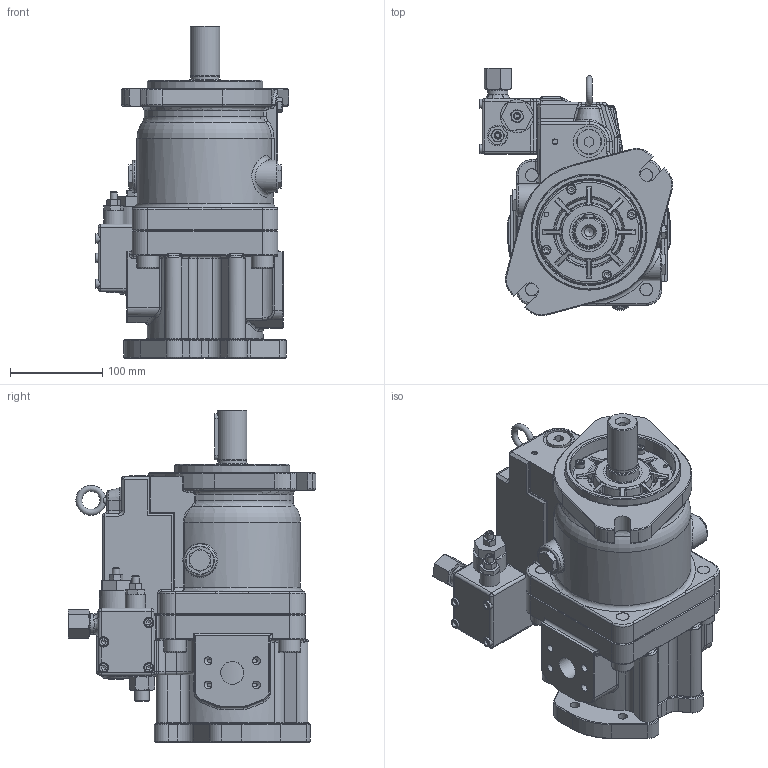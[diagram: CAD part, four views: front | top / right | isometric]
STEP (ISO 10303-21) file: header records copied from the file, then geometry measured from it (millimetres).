
FILE_DESCRIPTION(/* description */ (''),/* implementation_level */ '2;1');
FILE_NAME(/* name */ 'J:\3D Step files\Approved for WEB\K3V\K3VL80B 1BRMM L1.stp',/* time_stamp */ '2013-07-08T09:30:46+01:00',/* author */ ('mnorman'),/* organization */ (''),/* preprocessor_version */ 'ST-DEVELOPER v15.2',/* originating_system */ 'Autodesk Inventor 2014',/* authorisation */ '');
FILE_SCHEMA (('AUTOMOTIVE_DESIGN { 1 0 10303 214 3 1 1 }'));
Products named in the file (1): Part1
Bounding box: 209.73 x 268.73 x 360 mm (x, y, z)
Volume: 6504546.7 mm3; surface area: 471904.9 mm2
Topology: 1 solids, 37 shells, 1598 faces, 3719 edges, 2214 vertices
Faces by surface type: plane 599, cylinder 384, cone 257, bspline 197, torus 128, sphere 33
Full cylindrical faces by diameter (mm): 4 x1, 4.917 x6, 6 x9, 6.5 x4, 6.6 x4, 6.647 x2, 8 x3, 8.376 x15, 10 x12, 10.106 x9, 11 x8, 12.376 x1, 12.489 x2, 13.835 x4, 16 x11, 17.294 x2, 17.5 x4, 18 x4, 21 x1, 22 x2, 22.4 x1, 24 x4, 25 x1, 26 x4, 27 x1, 30 x2, 31 x1, 32 x1, 34 x1, 35 x2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
Entity records: 51657 total; most frequent: CARTESIAN_POINT 16995, DIRECTION 6697, ORIENTED_EDGE 6676, EDGE_CURVE 3338, AXIS2_PLACEMENT_3D 2729, VERTEX_POINT 2111, EDGE_LOOP 1935, STYLED_ITEM 1598
